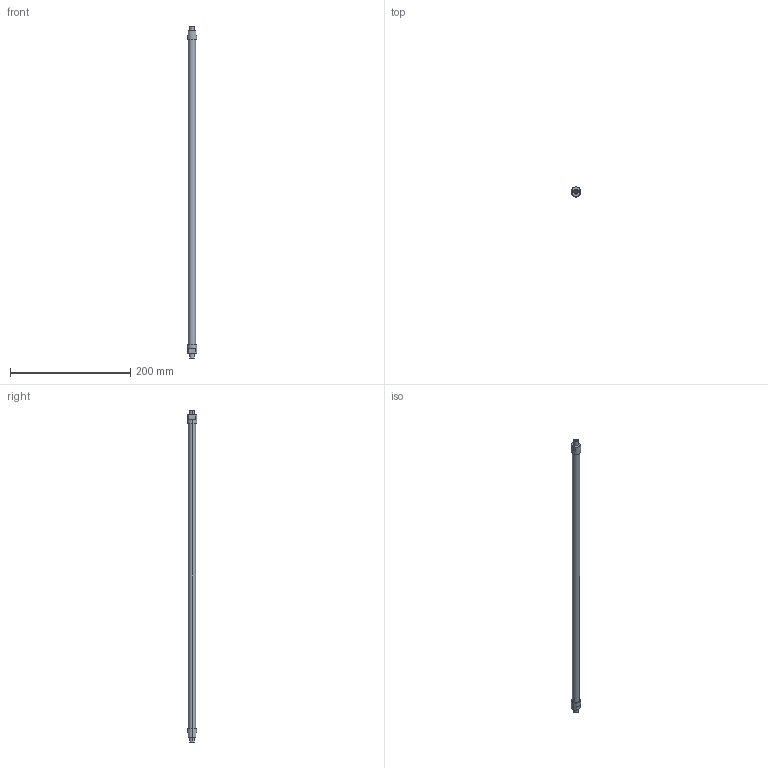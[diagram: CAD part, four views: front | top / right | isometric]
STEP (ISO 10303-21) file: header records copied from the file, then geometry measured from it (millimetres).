
FILE_DESCRIPTION(('STEP AP214'),'1');
FILE_NAME('ETT-R025G545.stp','2015-02-03T08:48:30',(' '),(' '),'Spatial InterOp 3D',' ',' ');
FILE_SCHEMA(('automotive_design'));
Length unit declared in the file: metre
Products named in the file (2): 1; 2
Bounding box: 16 x 16 x 552 mm (x, y, z)
Volume: 63388.7 mm3; surface area: 21916.3 mm2
Topology: 1 solids, 4 shells, 33 faces, 78 edges, 56 vertices
Faces by surface type: plane 17, cylinder 16
Entity records: 1292 total; most frequent: DIRECTION 192, CARTESIAN_POINT 169, ORIENTED_EDGE 144, AXIS2_PLACEMENT_3D 79, EDGE_CURVE 78, VERTEX_POINT 56, CIRCLE 44, EDGE_LOOP 40
